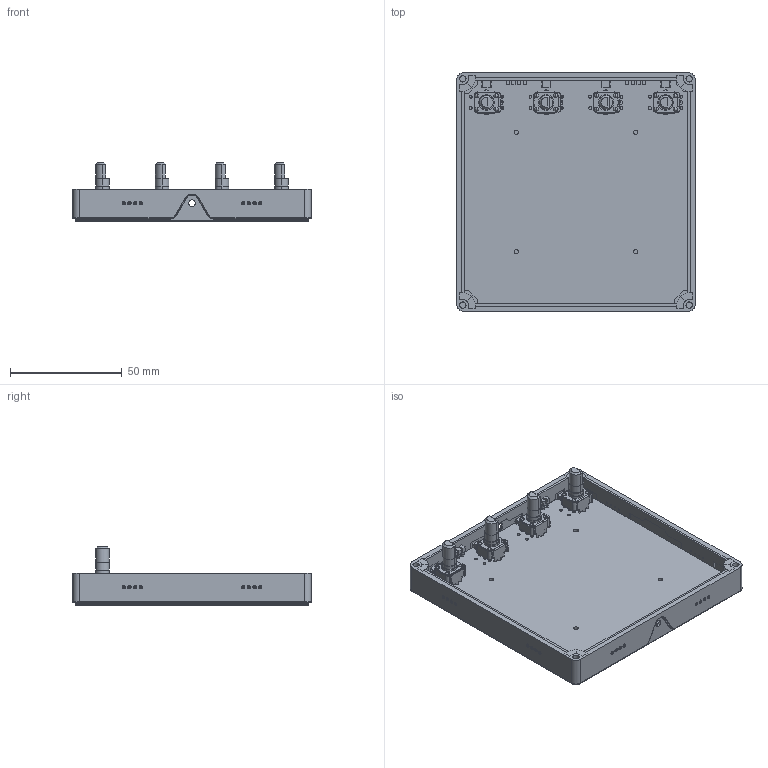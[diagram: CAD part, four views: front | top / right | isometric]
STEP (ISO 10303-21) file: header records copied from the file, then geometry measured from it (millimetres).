
FILE_DESCRIPTION(('FreeCAD Model'),'2;1');
FILE_NAME('I:/Workspace/grid/Mechanical/Source/canvas.step', '2019-03-03T14:14:43',('Author'),(''), 'Open CASCADE STEP processor 7.2','FreeCAD','Unknown');
FILE_SCHEMA(('AUTOMOTIVE_DESIGN { 1 0 10303 214 1 1 1 1 }'));
Length unit declared in the file: millimetre
Products named in the file (212): InterfaceBoard2_x4; IB_S; Layer_1; J24; Open_CASCADE_STEP_translator_6.8_1.2.1; Body_1; J25; Open_CASCADE_STEP_translator_6.8_1.3.1; Body_002; J26; Open_CASCADE_STEP_translator_6.8_1.4.1; Body_003; J27; Open_CASCADE_STEP_translator_6.8_1.5.1; Body_004; J20; Open_CASCADE_STEP_translator_6.8_1.6.1; Body_005; J23; Open_CASCADE_STEP_translator_6.8_1.7.1; Body_006; J21; Open_CASCADE_STEP_translator_6.8_1.8.1; Body_007; J22; Open_CASCADE_STEP_translator_6.8_1.9.1; Body_008; IB_N; Layer_002; J028; Open_CASCADE_STEP_translator_6.8_1.2.002; Body_009; J029; Open_CASCADE_STEP_translator_6.8_1.3.002; Body_010; J030; Open_CASCADE_STEP_translator_6.8_1.4.002; Body_011; J031; Open_CASCADE_STEP_translator_6.8_1.5.002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
Assembly tree (208 placements, depth 5):
  InterfaceBoard2_x4
    IB_S
      Layer_1
      J24
        Open_CASCADE_STEP_translator_6.8_1.2.1
          Body_1
      J25
        Open_CASCADE_STEP_translator_6.8_1.3.1
          Body_002
      J26
        Open_CASCADE_STEP_translator_6.8_1.4.1
          Body_003
      J27
        Open_CASCADE_STEP_translator_6.8_1.5.1
          Body_004
      J20
        Open_CASCADE_STEP_translator_6.8_1.6.1
          Body_005
      J23
        Open_CASCADE_STEP_translator_6.8_1.7.1
          Body_006
      J21
        Open_CASCADE_STEP_translator_6.8_1.8.1
          Body_007
      J22
        Open_CASCADE_STEP_translator_6.8_1.9.1
          Body_008
    IB_N
      Layer_002
      J028
        Open_CASCADE_STEP_translator_6.8_1.2.002
          Body_009
      J029
        Open_CASCADE_STEP_translator_6.8_1.3.002
          Body_010
      J030
        Open_CASCADE_STEP_translator_6.8_1.4.002
          Body_011
      J031
        Open_CASCADE_STEP_translator_6.8_1.5.002
          Body_012
      J032
        Open_CASCADE_STEP_translator_6.8_1.6.002
          Body_013
      J033
        Open_CASCADE_STEP_translator_6.8_1.7.002
          Body_014
      J034
        Open_CASCADE_STEP_translator_6.8_1.8.002
          Body_015
      J035
        Open_CASCADE_STEP_translator_6.8_1.9.002
          Body_016
    IB_E
      Layer_003
      J036
        Open_CASCADE_STEP_translator_6.8_1.2.003
          Body_017
      J037
        Open_CASCADE_STEP_translator_6.8_1.3.003
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Bounding box: 107 x 107 x 26.3 mm (x, y, z)
Volume: 60653.6 mm3; surface area: 68882.4 mm2
Topology: 87 solids, 127 shells, 2665 faces, 6411 edges, 4042 vertices
Faces by surface type: plane 1376, cylinder 897, sphere 152, cone 108, revolution 80, torus 52
Full cylindrical faces by diameter (mm): 1.5 x32, 2.8 x4, 3 x1, 10.5 x4
Entity records: 181455 total; most frequent: CARTESIAN_POINT 40983, DIRECTION 25336, LINE 14009, VECTOR 14009, ORIENTED_EDGE 12518, PCURVE 12518, DEFINITIONAL_REPRESENTATION 12518, EDGE_CURVE 6259
